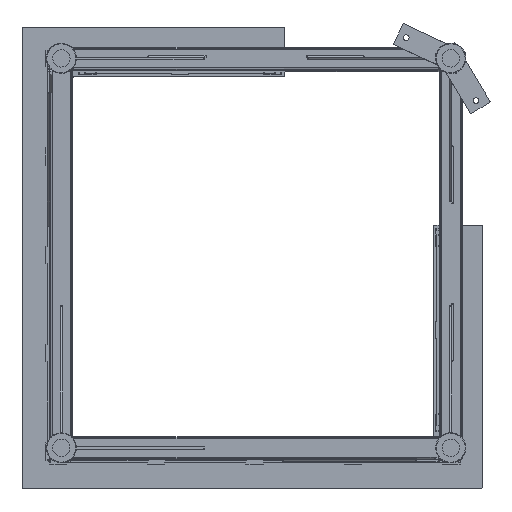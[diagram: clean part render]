
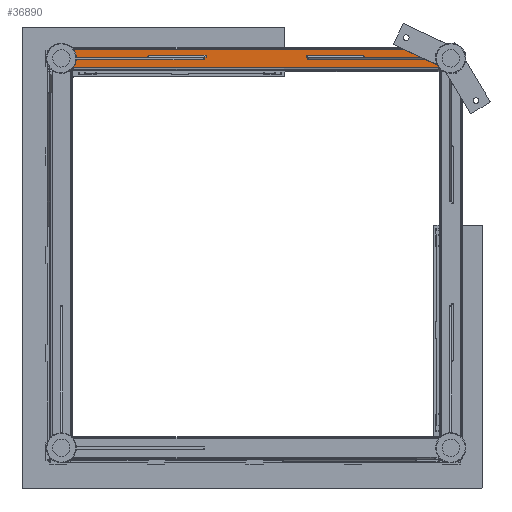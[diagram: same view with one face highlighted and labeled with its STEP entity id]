
A CAD part, top view. The second image highlights one B-rep face of the part: STEP entity #36890.
In plain terms, the highlighted planar face has unit normal (0, 0, 1).
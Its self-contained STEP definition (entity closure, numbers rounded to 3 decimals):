
#875=FACE_BOUND('',#5572,.T.);
#876=FACE_BOUND('',#5573,.T.);
#3409=FACE_OUTER_BOUND('',#5571,.T.);
#5571=EDGE_LOOP('',(#28435,#28436,#28437,#28438));
#5572=EDGE_LOOP('',(#28439,#28440,#28441,#28442,#28443,#28444,#28445,#28446));
#5573=EDGE_LOOP('',(#28447,#28448,#28449,#28450,#28451,#28452,#28453,#28454));
#9154=LINE('',#58767,#12380);
#9157=LINE('',#58774,#12383);
#9162=LINE('',#58783,#12388);
#9163=LINE('',#58787,#12389);
#9164=LINE('',#58789,#12390);
#9166=LINE('',#58796,#12392);
#9169=LINE('',#58803,#12395);
#9174=LINE('',#58812,#12400);
#9175=LINE('',#58816,#12401);
#9176=LINE('',#58818,#12402);
#9247=LINE('',#59212,#12473);
#9309=LINE('',#61788,#12535);
#9579=LINE('',#71465,#12805);
#9580=LINE('',#71466,#12806);
#9581=LINE('',#71468,#12807);
#9582=LINE('',#71470,#12808);
#9583=LINE('',#71471,#12809);
#9584=LINE('',#71473,#12810);
#9585=LINE('',#71475,#12811);
#9586=LINE('',#71476,#12812);
#12380=VECTOR('',#45902,10.);
#12383=VECTOR('',#45907,10.);
#12388=VECTOR('',#45914,10.);
#12389=VECTOR('',#45919,10.);
#12390=VECTOR('',#45922,10.);
#12392=VECTOR('',#45928,10.);
#12395=VECTOR('',#45933,10.);
#12400=VECTOR('',#45940,10.);
#12401=VECTOR('',#45945,10.);
#12402=VECTOR('',#45948,10.);
#12473=VECTOR('',#46141,10.);
#12535=VECTOR('',#46473,10.);
#12805=VECTOR('',#47745,10.);
#12806=VECTOR('',#47746,10.);
#12807=VECTOR('',#47747,10.);
#12808=VECTOR('',#47748,10.);
#12809=VECTOR('',#47749,10.);
#12810=VECTOR('',#47750,10.);
#12811=VECTOR('',#47751,10.);
#12812=VECTOR('',#47752,10.);
#15364=VERTEX_POINT('',#58763);
#15366=VERTEX_POINT('',#58766);
#15367=VERTEX_POINT('',#58770);
#15369=VERTEX_POINT('',#58773);
#15371=VERTEX_POINT('',#58779);
#15373=VERTEX_POINT('',#58785);
#15374=VERTEX_POINT('',#58792);
#15376=VERTEX_POINT('',#58795);
#15377=VERTEX_POINT('',#58799);
#15379=VERTEX_POINT('',#58802);
#15381=VERTEX_POINT('',#58808);
#15383=VERTEX_POINT('',#58814);
#15453=VERTEX_POINT('',#59171);
#15455=VERTEX_POINT('',#59206);
#15580=VERTEX_POINT('',#61625);
#15582=VERTEX_POINT('',#61753);
#16051=VERTEX_POINT('',#71467);
#16052=VERTEX_POINT('',#71469);
#16053=VERTEX_POINT('',#71472);
#16054=VERTEX_POINT('',#71474);
#19364=EDGE_CURVE('',#15366,#15364,#9154,.T.);
#19367=EDGE_CURVE('',#15369,#15367,#9157,.T.);
#19372=EDGE_CURVE('',#15371,#15366,#9162,.T.);
#19374=EDGE_CURVE('',#15373,#15369,#9163,.T.);
#19375=EDGE_CURVE('',#15367,#15371,#9164,.T.);
#19378=EDGE_CURVE('',#15376,#15374,#9166,.T.);
#19381=EDGE_CURVE('',#15379,#15377,#9169,.T.);
#19386=EDGE_CURVE('',#15381,#15376,#9174,.T.);
#19388=EDGE_CURVE('',#15383,#15379,#9175,.T.);
#19389=EDGE_CURVE('',#15377,#15381,#9176,.T.);
#19492=EDGE_CURVE('',#15453,#15455,#9247,.T.);
#19690=EDGE_CURVE('',#15580,#15582,#9309,.T.);
#20465=EDGE_CURVE('',#15580,#15455,#9579,.T.);
#20466=EDGE_CURVE('',#15582,#15453,#9580,.T.);
#20467=EDGE_CURVE('',#15374,#16051,#9581,.T.);
#20468=EDGE_CURVE('',#16051,#16052,#9582,.T.);
#20469=EDGE_CURVE('',#15383,#16052,#9583,.T.);
#20470=EDGE_CURVE('',#16053,#15364,#9584,.T.);
#20471=EDGE_CURVE('',#16053,#16054,#9585,.T.);
#20472=EDGE_CURVE('',#16054,#15373,#9586,.T.);
#28435=ORIENTED_EDGE('',*,*,#19492,.T.);
#28436=ORIENTED_EDGE('',*,*,#20465,.F.);
#28437=ORIENTED_EDGE('',*,*,#19690,.T.);
#28438=ORIENTED_EDGE('',*,*,#20466,.T.);
#28439=ORIENTED_EDGE('',*,*,#19388,.T.);
#28440=ORIENTED_EDGE('',*,*,#19381,.T.);
#28441=ORIENTED_EDGE('',*,*,#19389,.T.);
#28442=ORIENTED_EDGE('',*,*,#19386,.T.);
#28443=ORIENTED_EDGE('',*,*,#19378,.T.);
#28444=ORIENTED_EDGE('',*,*,#20467,.T.);
#28445=ORIENTED_EDGE('',*,*,#20468,.T.);
#28446=ORIENTED_EDGE('',*,*,#20469,.F.);
#28447=ORIENTED_EDGE('',*,*,#19374,.T.);
#28448=ORIENTED_EDGE('',*,*,#19367,.T.);
#28449=ORIENTED_EDGE('',*,*,#19375,.T.);
#28450=ORIENTED_EDGE('',*,*,#19372,.T.);
#28451=ORIENTED_EDGE('',*,*,#19364,.T.);
#28452=ORIENTED_EDGE('',*,*,#20470,.F.);
#28453=ORIENTED_EDGE('',*,*,#20471,.T.);
#28454=ORIENTED_EDGE('',*,*,#20472,.T.);
#33078=PLANE('',#39888);
#36890=ADVANCED_FACE('',(#3409,#875,#876),#33078,.T.);
#39888=AXIS2_PLACEMENT_3D('',#71464,#47743,#47744);
#45902=DIRECTION('',(-1.,0.,0.));
#45907=DIRECTION('',(0.,1.,0.));
#45914=DIRECTION('',(0.,-1.,0.));
#45919=DIRECTION('',(-1.,0.,0.));
#45922=DIRECTION('',(1.,0.,0.));
#45928=DIRECTION('',(-1.,0.,0.));
#45933=DIRECTION('',(0.,1.,0.));
#45940=DIRECTION('',(0.,-1.,0.));
#45945=DIRECTION('',(-1.,0.,0.));
#45948=DIRECTION('',(1.,0.,0.));
#46141=DIRECTION('',(0.,-1.,0.));
#46473=DIRECTION('',(0.,1.,0.));
#47743=DIRECTION('center_axis',(0.,0.,
1.));
#47744=DIRECTION('ref_axis',(1.,0.,0.));
#47745=DIRECTION('',(-1.,0.,0.));
#47746=DIRECTION('',(-1.,0.,0.));
#47747=DIRECTION('',(0.,-1.,0.));
#47748=DIRECTION('',(-1.,0.,0.));
#47749=DIRECTION('',(0.,-1.,0.));
#47750=DIRECTION('',(0.,1.,0.));
#47751=DIRECTION('',(-1.,0.,0.));
#47752=DIRECTION('',(0.,1.,0.));
#58763=CARTESIAN_POINT('',(-131.833,22.,1306.));
#58766=CARTESIAN_POINT('',(-131.005,22.,1306.));
#58767=CARTESIAN_POINT('',(-47.571,22.,1306.));
#58770=CARTESIAN_POINT('',(-230.,25.5,1306.));
#58773=CARTESIAN_POINT('',(-230.,22.,1306.));
#58774=CARTESIAN_POINT('',(-230.,29.,1306.));
#58779=CARTESIAN_POINT('',(-131.005,25.5,1306.));
#58783=CARTESIAN_POINT('',(-131.005,29.,1306.));
#58785=CARTESIAN_POINT('',(-225.172,22.,1306.));
#58787=CARTESIAN_POINT('',(-47.571,22.,1306.));
#58789=CARTESIAN_POINT('',(-63.753,25.5,1306.));
#58792=CARTESIAN_POINT('',(-407.828,22.,1306.));
#58795=CARTESIAN_POINT('',(-403.,22.,1306.));
#58796=CARTESIAN_POINT('',(-268.929,22.,1306.));
#58799=CARTESIAN_POINT('',(-501.995,25.5,1306.));
#58802=CARTESIAN_POINT('',(-501.995,22.,1306.));
#58803=CARTESIAN_POINT('',(-501.995,29.,1306.));
#58808=CARTESIAN_POINT('',(-403.,25.5,1306.));
#58812=CARTESIAN_POINT('',(-403.,29.,1306.));
#58814=CARTESIAN_POINT('',(-501.167,22.,1306.));
#58816=CARTESIAN_POINT('',(-268.929,22.,1306.));
#58818=CARTESIAN_POINT('',(-203.25,25.5,1306.));
#59171=CARTESIAN_POINT('',(-631.388,36.,1306.));
#59206=CARTESIAN_POINT('',(-631.388,4.,1306.));
#59212=CARTESIAN_POINT('',(-631.388,36.,1306.));
#61625=CARTESIAN_POINT('',(-1.612,4.,1306.));
#61753=CARTESIAN_POINT('',(-1.612,36.,1306.));
#61788=CARTESIAN_POINT('',(-1.612,36.,1306.));
#71464=CARTESIAN_POINT('Origin',(0.,36.,1306.));
#71465=CARTESIAN_POINT('',(0.,4.,1306.));
#71466=CARTESIAN_POINT('',(0.,36.,1306.));
#71467=CARTESIAN_POINT('',(-407.828,18.,1306.));
#71468=CARTESIAN_POINT('',(-407.828,22.,1306.));
#71469=CARTESIAN_POINT('',(-501.167,18.,1306.));
#71470=CARTESIAN_POINT('',(-268.929,18.,1306.));
#71471=CARTESIAN_POINT('',(-501.167,22.,1306.));
#71472=CARTESIAN_POINT('',(-131.833,18.,1306.));
#71473=CARTESIAN_POINT('',(-131.833,18.,1306.));
#71474=CARTESIAN_POINT('',(-225.172,18.,1306.));
#71475=CARTESIAN_POINT('',(-47.571,18.,1306.));
#71476=CARTESIAN_POINT('',(-225.172,18.,1306.));
